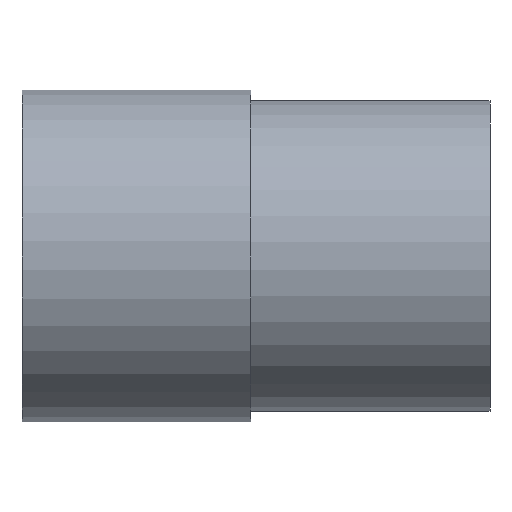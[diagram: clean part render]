
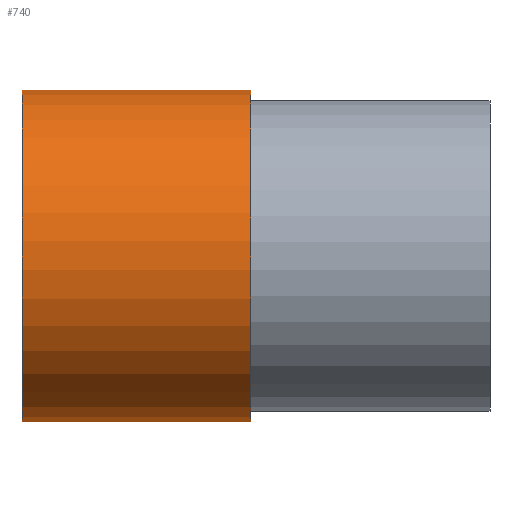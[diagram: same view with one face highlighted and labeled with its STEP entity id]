
A CAD part, front view. The second image highlights one B-rep face of the part: STEP entity #740.
In plain terms, the highlighted cylindrical face has radius 8 mm (diameter 16 mm), a partial arc.
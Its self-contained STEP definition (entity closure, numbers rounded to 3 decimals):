
#100=CARTESIAN_POINT('',(82.074,58.099,
-5.653));
#110=VERTEX_POINT('',#100);
#290=CARTESIAN_POINT('',(82.074,58.092,
-5.66));
#300=VERTEX_POINT('',#290);
#330=CARTESIAN_POINT('',(82.074,52.439,0.));
#340=DIRECTION('',(1.,0.,0.));
#350=DIRECTION('',(0.,1.,0.));
#360=AXIS2_PLACEMENT_3D('',#330,#340,#350);
#370=CIRCLE('',#360,8.);
#380=EDGE_CURVE('',#110,#300,#370,.T.);
#430=CARTESIAN_POINT('',(76.574,52.439,0.));
#440=DIRECTION('',(1.,0.,0.));
#450=DIRECTION('',(0.,-1.,0.));
#460=AXIS2_PLACEMENT_3D('',#430,#440,#450);
#470=CYLINDRICAL_SURFACE('',#460,8.);
#480=CARTESIAN_POINT('',(76.574,58.099,
-5.653));
#490=DIRECTION('',(1.,0.,0.));
#500=VECTOR('',#490,1.);
#510=LINE('',#480,#500);
#520=CARTESIAN_POINT('',(71.074,58.099,
-5.653));
#530=VERTEX_POINT('',#520);
#540=EDGE_CURVE('',#530,#110,#510,.T.);
#550=ORIENTED_EDGE('',*,*,#540,.F.);
#560=ORIENTED_EDGE('',*,*,#380,.F.);
#570=CARTESIAN_POINT('',(76.574,58.092,
-5.66));
#580=DIRECTION('',(1.,0.,0.));
#590=VECTOR('',#580,1.);
#600=LINE('',#570,#590);
#610=CARTESIAN_POINT('',(71.074,58.092,
-5.66));
#620=VERTEX_POINT('',#610);
#630=EDGE_CURVE('',#620,#300,#600,.T.);
#640=ORIENTED_EDGE('',*,*,#630,.T.);
#650=CARTESIAN_POINT('',(71.074,52.439,0.));
#660=DIRECTION('',(1.,0.,0.));
#670=DIRECTION('',(0.,1.,0.));
#680=AXIS2_PLACEMENT_3D('',#650,#660,#670);
#690=CIRCLE('',#680,8.);
#700=EDGE_CURVE('',#530,#620,#690,.T.);
#710=ORIENTED_EDGE('',*,*,#700,.T.);
#720=EDGE_LOOP('',(#710,#640,#560,#550));
#730=FACE_OUTER_BOUND('',#720,.T.);
#740=ADVANCED_FACE('',(#730),#470,.T.);
